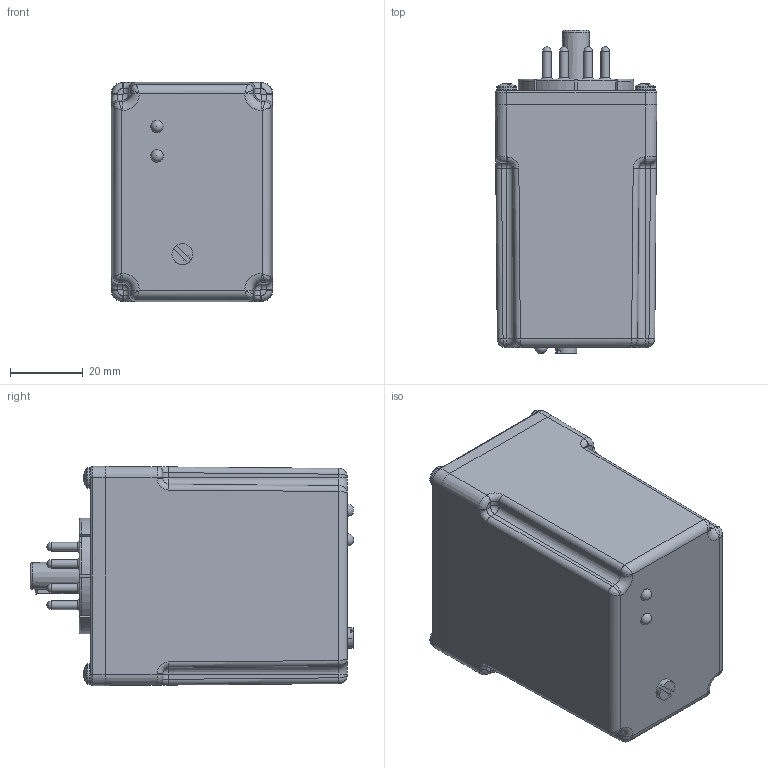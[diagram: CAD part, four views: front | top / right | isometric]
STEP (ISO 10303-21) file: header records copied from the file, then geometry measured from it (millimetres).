
FILE_DESCRIPTION(('FreeCAD Model'),'2;1');
FILE_NAME('Open CASCADE Shape Model','2023-06-06T13:06:17',(''),(''), 'Open CASCADE STEP processor 7.6','FreeCAD','Unknown');
FILE_SCHEMA(('AUTOMOTIVE_DESIGN { 1 0 10303 214 1 1 1 1 }'));
Products named in the file (1): Compound
Bounding box: 44.45 x 88.95 x 60.33 mm (x, y, z)
Surface area: 43620.7 mm2 (no closed solid volume)
Topology: 0 solids, 21 shells, 1863 faces, 4771 edges, 2959 vertices
Faces by surface type: plane 703, cylinder 684, bspline 200, torus 121, sphere 58, cone 57, revolution 40
Full cylindrical faces by diameter (mm): 0.254 x16, 1.257 x8, 1.714 x8, 1.905 x16, 2.362 x16, 2.464 x8, 3.175 x4, 4.191 x8, 7.925 x1
Entity records: 175002 total; most frequent: CARTESIAN_POINT 85248, DIRECTION 15352, ORIENTED_EDGE 9394, PCURVE 9394, DEFINITIONAL_REPRESENTATION 9394, LINE 9142, VECTOR 9142, EDGE_CURVE 4705
